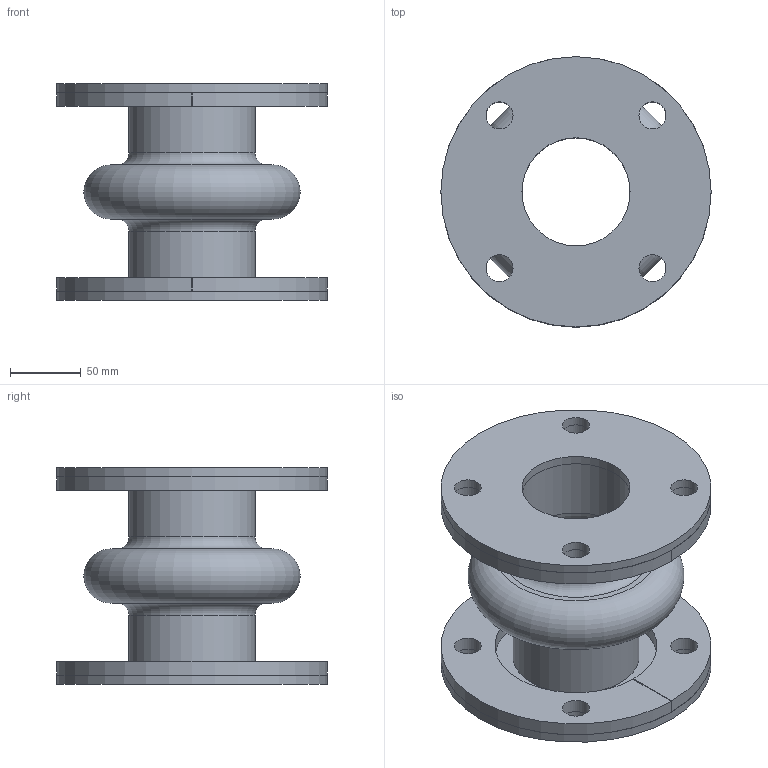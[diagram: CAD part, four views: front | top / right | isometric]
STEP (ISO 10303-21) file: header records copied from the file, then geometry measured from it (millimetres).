
FILE_DESCRIPTION(/* description */ (''),/* implementation_level */ '2;1');
FILE_NAME(/* name */ '3x6.stp',/* time_stamp */ '2026-07-21T15:57:21-05:00',/* author */ ('linda'),/* organization */ (''),/* preprocessor_version */ 'ST-DEVELOPER v20.1',/* originating_system */ 'Autodesk Inventor 2026',/* authorisation */ '');
FILE_SCHEMA (('AUTOMOTIVE_DESIGN { 1 0 10303 214 3 1 1 }'));
Length unit declared in the file: inch
Products named in the file (1): Part16
Bounding box: 190.5 x 190.5 x 152.4 mm (x, y, z)
Volume: 972462.9 mm3; surface area: 308237.9 mm2
Topology: 5 solids, 5 shells, 62 faces, 138 edges, 92 vertices
Faces by surface type: cylinder 32, plane 24, torus 6
Full cylindrical faces by diameter (mm): 19.05 x16, 76.2 x4, 88.9 x2, 190.5 x2
Entity records: 1953 total; most frequent: DIRECTION 346, CARTESIAN_POINT 293, ORIENTED_EDGE 276, AXIS2_PLACEMENT_3D 145, EDGE_CURVE 138, EDGE_LOOP 102, VERTEX_POINT 92, CIRCLE 82
